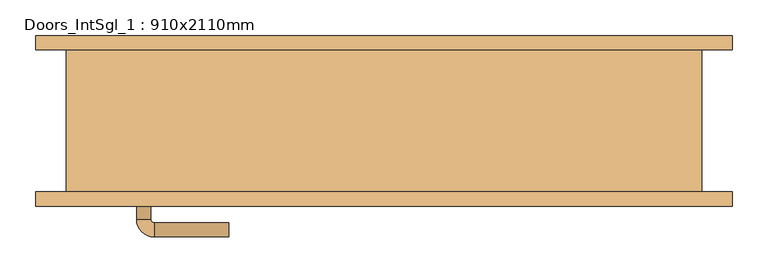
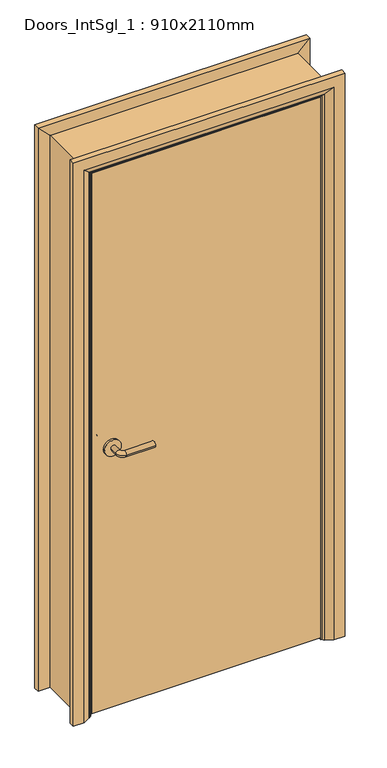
"""IFC4 building model written with IfcOpenShell, lengths in millimetres: door geometry, Doors_IntSgl_1 : 910x2110mm."""

from ifc_helpers import new_model, si_unit, point, frame, frame_2d, origin, place, context, project, spatial, polyline, circle_curve, ellipse_curve, trimmed, segment, composite_curve, outline, extrude, faceted_brep, source, transform, mapped, element, save
from ifc_brep_helpers import plane_surface, cylinder_surface, revolved_surface, advanced_brep


def doors_intsgl_1_910x2110mm_80b4a4db(model_context):
    return source(origin(), model_context, "Body", "SolidModel", [
        advanced_brep(
        [(-348.0, -54.0, 1000.0), (-328.0, -54.0, 1000.0), (-348.0, -24.0, 1000.0), (-328.0, -24.0, 1000.0), (-323.0, -19.0, 1000.0), (-323.0, 1.0, 1000.0), (-218.0, 1.0, 1000.0), (-218.0, -19.0, 1000.0)],
        [
            (0, 1, circle_curve(frame((-338.0, -54.0, 1000.0), z_axis=(0.0, -1.0, 0.0), x_axis=(1.0, 0.0, 0.0)), 10.0)),
            (1, 0, circle_curve(frame((-338.0, -54.0, 1000.0), z_axis=(0.0, -1.0, 0.0), x_axis=(1.0, 0.0, 0.0)), 10.0)),
            (0, 2),
            (2, 3, circle_curve(frame((-338.0, -24.0, 1000.0), z_axis=(0.0, -1.0, 0.0), x_axis=(1.0, 0.0, 0.0)), 10.0)),
            (3, 1),
            (3, 2, circle_curve(frame((-338.0, -24.0, 1000.0), z_axis=(0.0, -1.0, 0.0), x_axis=(1.0, 0.0, 0.0)), 10.0)),
            (4, 3, circle_curve(frame((-323.0, -24.0, 1000.0), z_axis=(0.0, 0.0, 1.0), x_axis=(-1.0, 0.0, 0.0)), 5.0)),
            (2, 5, circle_curve(frame((-323.0, -24.0, 1000.0), z_axis=(0.0, 0.0, -1.0), x_axis=(-1.0, 0.0, 0.0)), 25.0)),
            (5, 4, circle_curve(frame((-323.0, -9.0, 1000.0), z_axis=(-1.0, 0.0, 0.0), x_axis=(0.0, -1.0, 0.0)), 10.0)),
            (4, 5, circle_curve(frame((-323.0, -9.0, 1000.0), z_axis=(-1.0, 0.0, 0.0), x_axis=(0.0, -1.0, 0.0)), 10.0)),
            (6, 7, circle_curve(frame((-218.0, -9.0, 1000.0), z_axis=(1.0, 0.0, 0.0), x_axis=(0.0, -1.0, 0.0)), 10.0)),
            (7, 6, circle_curve(frame((-218.0, -9.0, 1000.0), z_axis=(1.0, 0.0, 0.0), x_axis=(0.0, -1.0, 0.0)), 10.0)),
            (5, 6),
            (7, 4),
        ],
        [
            plane_surface(frame((-338.0, -54.0, 1000.0), z_axis=(0.0, -1.0, 0.0), x_axis=(0.0, 0.0, 1.0))),
            cylinder_surface(frame((-338.0, -54.0, 1000.0), z_axis=(0.0, -1.0, 0.0), x_axis=(1.0, 0.0, 0.0)), 10.0),
            revolved_surface(trimmed(ellipse_curve(frame((-338.0, -24.0, 1000.0), z_axis=(0.0, -1.0, 0.0), x_axis=(1.0, 0.0, 0.0)), 10.0, 10.0), [point((-348.0, -24.0, 1000.0))], [point((-328.0, -24.0, 1000.0))], True, "CARTESIAN"), (-323.0, -24.0, 1000.0), (0.0, 0.0, -1.0)),
            revolved_surface(trimmed(ellipse_curve(frame((-338.0, -24.0, 1000.0), z_axis=(0.0, -1.0, 0.0), x_axis=(1.0, 0.0, 0.0)), 10.0, 10.0), [point((-328.0, -24.0, 1000.0))], [point((-348.0, -24.0, 1000.0))], True, "CARTESIAN"), (-323.0, -24.0, 1000.0), (0.0, 0.0, -1.0)),
            plane_surface(frame((-218.0, -9.0, 1000.0), z_axis=(1.0, 0.0, 0.0), x_axis=(0.0, 0.0, 1.0))),
            cylinder_surface(frame((-323.0, -9.0, 1000.0), z_axis=(-1.0, 0.0, 0.0), x_axis=(0.0, -1.0, 0.0)), 10.0),
        ],
        [
            (0, [[1, 2]]),
            (1, [[-1, 3, 4, 5]]),
            (1, [[-2, -5, 6, -3]]),
            (2, [[7, -4, 8, 9]]),
            (3, [[-8, -6, -7, 10]]),
            (4, [[11, 12]]),
            (5, [[-9, 13, -12, 14]]),
            (5, [[-10, -14, -11, -13]]),
        ],
    ),
        extrude(outline(composite_curve([segment(trimmed(circle_curve(frame_2d((1000.0, -340.5)), 30.0), [point((1000.0, -370.5))], [point((1000.0, -310.5))], False, "CARTESIAN"), True, "CONTINUOUS"), segment(trimmed(circle_curve(frame_2d((1000.0, -340.5)), 30.0), [point((1000.0, -310.5))], [point((1000.0, -370.5))], False, "CARTESIAN"), True, "CONTINUOUS")], self_intersect=False)), frame((0.0, -62.0, 0.0), z_axis=(0.0, 1.0, 0.0), x_axis=(0.0, 0.0, 1.0)), (0.0, 0.0, 1.0), 8.0),
        advanced_brep(
        [(-348.0, -108.0, 1000.0), (-328.0, -108.0, 1000.0), (-328.0, -138.0, 1000.0), (-348.0, -138.0, 1000.0), (-323.0, -143.0, 1000.0), (-323.0, -163.0, 1000.0), (-218.0, -163.0, 1000.0), (-218.0, -143.0, 1000.0)],
        [
            (0, 1, circle_curve(frame((-338.0, -108.0, 1000.0), z_axis=(0.0, 1.0, 0.0), x_axis=(1.0, 0.0, 0.0)), 10.0)),
            (1, 0, circle_curve(frame((-338.0, -108.0, 1000.0), z_axis=(0.0, 1.0, 0.0), x_axis=(1.0, 0.0, 0.0)), 10.0)),
            (1, 2),
            (2, 3, circle_curve(frame((-338.0, -138.0, 1000.0), z_axis=(0.0, 1.0, 0.0), x_axis=(1.0, 0.0, 0.0)), 10.0)),
            (3, 0),
            (3, 2, circle_curve(frame((-338.0, -138.0, 1000.0), z_axis=(0.0, 1.0, 0.0), x_axis=(1.0, 0.0, 0.0)), 10.0)),
            (4, 5, circle_curve(frame((-323.0, -153.0, 1000.0), z_axis=(-1.0, 0.0, 0.0), x_axis=(0.0, 1.0, 0.0)), 10.0)),
            (5, 3, circle_curve(frame((-323.0, -138.0, 1000.0), z_axis=(0.0, 0.0, -1.0), x_axis=(-1.0, 0.0, 0.0)), 25.0)),
            (2, 4, circle_curve(frame((-323.0, -138.0, 1000.0), z_axis=(0.0, 0.0, 1.0), x_axis=(-1.0, 0.0, 0.0)), 5.0)),
            (5, 4, circle_curve(frame((-323.0, -153.0, 1000.0), z_axis=(-1.0, 0.0, 0.0), x_axis=(0.0, 1.0, 0.0)), 10.0)),
            (6, 7, circle_curve(frame((-218.0, -153.0, 1000.0), z_axis=(1.0, 0.0, 0.0), x_axis=(0.0, 1.0, 0.0)), 10.0)),
            (7, 6, circle_curve(frame((-218.0, -153.0, 1000.0), z_axis=(1.0, 0.0, 0.0), x_axis=(0.0, 1.0, 0.0)), 10.0)),
            (4, 7),
            (6, 5),
        ],
        [
            plane_surface(frame((-338.0, -108.0, 1000.0), z_axis=(0.0, 1.0, 0.0), x_axis=(0.0, 0.0, 1.0))),
            cylinder_surface(frame((-338.0, -108.0, 1000.0), z_axis=(0.0, 1.0, 0.0), x_axis=(1.0, 0.0, 0.0)), 10.0),
            revolved_surface(trimmed(ellipse_curve(frame((-338.0, -138.0, 1000.0), z_axis=(0.0, -1.0, 0.0), x_axis=(1.0, 0.0, 0.0)), 10.0, 10.0), [point((-348.0, -138.0, 1000.0))], [point((-328.0, -138.0, 1000.0))], True, "CARTESIAN"), (-323.0, -138.0, 1000.0), (0.0, 0.0, -1.0)),
            revolved_surface(trimmed(ellipse_curve(frame((-338.0, -138.0, 1000.0), z_axis=(0.0, -1.0, 0.0), x_axis=(1.0, 0.0, 0.0)), 10.0, 10.0), [point((-328.0, -138.0, 1000.0))], [point((-348.0, -138.0, 1000.0))], True, "CARTESIAN"), (-323.0, -138.0, 1000.0), (0.0, 0.0, -1.0)),
            plane_surface(frame((-218.0, -153.0, 1000.0), z_axis=(1.0, 0.0, 0.0), x_axis=(0.0, 0.0, 1.0))),
            cylinder_surface(frame((-323.0, -153.0, 1000.0), z_axis=(-1.0, 0.0, 0.0), x_axis=(0.0, 1.0, 0.0)), 10.0),
        ],
        [
            (0, [[1, 2]]),
            (1, [[3, 4, 5, -2]]),
            (1, [[-5, 6, -3, -1]]),
            (2, [[7, 8, -4, 9]]),
            (3, [[10, -9, -6, -8]]),
            (4, [[11, 12]]),
            (5, [[13, -11, 14, -7]]),
            (5, [[-14, -12, -13, -10]]),
        ],
    ),
        extrude(outline(composite_curve([segment(trimmed(circle_curve(frame_2d((1000.0, -340.5)), 30.0), [point((1000.0, -370.5))], [point((1000.0, -310.5))], False, "CARTESIAN"), True, "CONTINUOUS"), segment(trimmed(circle_curve(frame_2d((1000.0, -340.5)), 30.0), [point((1000.0, -310.5))], [point((1000.0, -370.5))], False, "CARTESIAN"), True, "CONTINUOUS")], self_intersect=False)), frame((0.0, -108.0, 0.0), z_axis=(0.0, 1.0, 0.0), x_axis=(0.0, 0.0, 1.0)), (0.0, 0.0, 1.0), 8.0),
        extrude(outline(polyline([(413.0, -62.0), (413.0, -100.0), (-413.0, -100.0), (-413.0, -62.0), (413.0, -62.0)])), frame((0.0, 0.0, 8.0), z_axis=(0.0, 0.0, 1.0), x_axis=(1.0, 0.0, 0.0)), (0.0, 0.0, 1.0), 2060.0),
        advanced_brep(
        [(490.0, -120.0, 0.0), (450.0, -120.0, 0.0), (424.0, -106.0, 0.0), (420.0, -100.0, 0.0), (490.0, -100.0, 0.0), (490.0, -100.0, 2145.0), (490.0, -120.0, 2145.0), (420.0, -100.0, 2075.0), (-420.0, -100.0, 2075.0), (-420.0, -100.0, 0.0), (-490.0, -100.0, 0.0), (-490.0, -100.0, 2145.0), (424.0, -106.0, 2079.0), (450.0, -120.0, 2105.0), (-490.0, -120.0, 2145.0), (-490.0, -120.0, 0.0), (-450.0, -120.0, 0.0), (-450.0, -120.0, 2105.0), (-424.0, -106.0, 0.0), (-424.0, -106.0, 2079.0)],
        [
            (0, 1),
            (1, 2),
            (2, 3, circle_curve(frame((428.0, -99.0, 0.0), z_axis=(0.0, 0.0, -1.0), x_axis=(1.0, 0.0, 0.0)), 8.0622577)),
            (3, 4),
            (4, 0),
            (4, 5),
            (5, 6),
            (6, 0),
            (3, 7),
            (7, 8),
            (8, 9),
            (9, 10),
            (10, 11),
            (11, 5),
            (2, 12),
            (12, 7, ellipse_curve(frame((428.0, -99.0, 2083.0), z_axis=(0.7071067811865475, 0.0, -0.7071067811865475), x_axis=(-0.7071067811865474, 0.0, -0.7071067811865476)), 11.4017543, 8.0622577)),
            (1, 13),
            (13, 12),
            (6, 14),
            (14, 15),
            (15, 16),
            (16, 17),
            (17, 13),
            (10, 15),
            (14, 11),
            (9, 18, circle_curve(frame((-428.0, -99.0, 0.0), z_axis=(0.0, 0.0, -1.0), x_axis=(-1.0, 0.0, 0.0)), 8.0622577)),
            (18, 16),
            (19, 18),
            (8, 19, ellipse_curve(frame((-428.0, -99.0, 2083.0), z_axis=(-0.7071067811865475, 0.0, -0.7071067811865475), x_axis=(-0.7071067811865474, 0.0, 0.7071067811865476)), 11.4017543, 8.0622577)),
            (19, 17),
            (12, 19),
        ],
        [
            plane_surface(frame((420.0, -100.0, 0.0), z_axis=(0.0, 0.0, -1.0), x_axis=(0.0, 1.0, 0.0))),
            plane_surface(frame((490.0, -120.0, 0.0), z_axis=(1.0, 0.0, 0.0), x_axis=(0.0, 0.0, 1.0))),
            plane_surface(frame((490.0, -100.0, 0.0), z_axis=(0.0, 1.0, 0.0), x_axis=(0.0, 0.0, 1.0))),
            cylinder_surface(frame((428.0, -99.0, 0.0), z_axis=(0.0, 0.0, -1.0), x_axis=(1.0, 0.0, 0.0)), 8.0622577),
            plane_surface(frame((424.0, -106.0, 0.0), z_axis=(-0.4740998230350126, -0.880471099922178, 0.0), x_axis=(0.0, 0.0, 1.0))),
            plane_surface(frame((450.0, -120.0, 0.0), z_axis=(0.0, -1.0, 0.0), x_axis=(0.0, 0.0, 1.0))),
            plane_surface(frame((-490.0, -120.0, 2145.0), z_axis=(-1.0, 0.0, 0.0), x_axis=(0.0, 0.0, -1.0))),
            plane_surface(frame((-420.0, -100.0, 0.0), z_axis=(0.0, 0.0, -1.0), x_axis=(0.0, 1.0, 0.0))),
            cylinder_surface(frame((-428.0, -99.0, 2075.0), z_axis=(0.0, 0.0, 1.0), x_axis=(-1.0, 0.0, 0.0)), 8.0622577),
            plane_surface(frame((-424.0, -106.0, 2079.0), z_axis=(0.47409982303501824, -0.8804710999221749, 0.0), x_axis=(0.0, 0.0, -1.0))),
            plane_surface(frame((490.0, -120.0, 2145.0), z_axis=(0.0, 0.0, 1.0), x_axis=(-1.0, 0.0, 0.0))),
            cylinder_surface(frame((420.0, -99.0, 2083.0), z_axis=(1.0, 0.0, 0.0), x_axis=(0.0, 0.0, 1.0)), 8.0622577),
            plane_surface(frame((424.0, -106.0, 2079.0), z_axis=(0.0, -0.8804710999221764, -0.4740998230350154), x_axis=(-1.0, 0.0, 0.0))),
        ],
        [
            (0, [[1, 2, 3, 4, 5]]),
            (1, [[6, 7, 8, -5]]),
            (2, [[9, 10, 11, 12, 13, 14, -6, -4]]),
            (3, [[15, 16, -9, -3]]),
            (4, [[17, 18, -15, -2]]),
            (5, [[-8, 19, 20, 21, 22, 23, -17, -1]]),
            (6, [[-13, 24, -20, 25]]),
            (7, [[-24, -12, 26, 27, -21]]),
            (8, [[28, -26, -11, 29]]),
            (9, [[-22, -27, -28, 30]]),
            (10, [[-14, -25, -19, -7]]),
            (11, [[31, -29, -10, -16]]),
            (12, [[-23, -30, -31, -18]]),
        ],
    ),
        extrude(outline(polyline([(0.0, -396.0), (2051.0, -396.0), (2051.0, 396.0), (0.0, 396.0), (0.0, 415.0), (2070.0, 415.0), (2070.0, -415.0), (0.0, -415.0), (0.0, -396.0)])), frame((0.0, -60.0, 0.0), z_axis=(0.0, 1.0, 0.0), x_axis=(0.0, 0.0, 1.0)), (0.0, 0.0, 1.0), 32.0),
        advanced_brep(
        [(-490.0, 120.0, 0.0), (-450.0, 120.0, 0.0), (-424.0, 106.0, 0.0), (-420.0, 100.0, 0.0), (-490.0, 100.0, 0.0), (-490.0, 100.0, 2145.0), (-490.0, 120.0, 2145.0), (-420.0, 100.0, 2075.0), (-424.0, 106.0, 2079.0), (-450.0, 120.0, 2105.0), (490.0, 120.0, 0.0), (490.0, 100.0, 0.0), (420.0, 100.0, 0.0), (424.0, 106.0, 0.0), (450.0, 120.0, 0.0), (490.0, 120.0, 2145.0), (450.0, 120.0, 2105.0), (424.0, 106.0, 2079.0), (420.0, 100.0, 2075.0), (490.0, 100.0, 2145.0)],
        [
            (0, 1),
            (1, 2),
            (2, 3, circle_curve(frame((-428.0, 99.0, 0.0), z_axis=(0.0, 0.0, -1.0), x_axis=(-1.0, 0.0, 0.0)), 8.0622577)),
            (3, 4),
            (4, 0),
            (4, 5),
            (5, 6),
            (6, 0),
            (3, 7),
            (7, 5),
            (2, 8),
            (8, 7, ellipse_curve(frame((-428.0, 99.0, 2083.0), z_axis=(-0.7071067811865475, 0.0, -0.7071067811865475), x_axis=(0.7071067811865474, 0.0, -0.7071067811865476)), 11.4017543, 8.0622577)),
            (1, 9),
            (9, 8),
            (6, 9),
            (10, 11),
            (11, 12),
            (12, 13, circle_curve(frame((428.0, 99.0, 0.0), z_axis=(0.0, 0.0, -1.0), x_axis=(1.0, 0.0, 0.0)), 8.0622577)),
            (13, 14),
            (14, 10),
            (15, 10),
            (14, 16),
            (16, 15),
            (13, 17),
            (17, 16),
            (12, 18),
            (18, 17, ellipse_curve(frame((428.0, 99.0, 2083.0), z_axis=(0.7071067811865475, 0.0, -0.7071067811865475), x_axis=(0.7071067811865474, 0.0, 0.7071067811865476)), 11.4017543, 8.0622577)),
            (11, 19),
            (19, 18),
            (15, 19),
            (5, 19),
            (15, 6),
            (7, 18),
            (8, 17),
            (9, 16),
        ],
        [
            plane_surface(frame((-420.0, 172.8010989, 0.0), z_axis=(0.0, 0.0, -1.0), x_axis=(1.0, 0.0, 0.0))),
            plane_surface(frame((-490.0, 120.0, 0.0), z_axis=(-1.0, 0.0, 0.0), x_axis=(0.0, 0.0, 1.0))),
            plane_surface(frame((-490.0, 100.0, 0.0), z_axis=(0.0, -1.0, 0.0), x_axis=(0.0, 0.0, 1.0))),
            cylinder_surface(frame((-428.0, 99.0, 0.0), z_axis=(0.0, 0.0, -1.0), x_axis=(-1.0, 0.0, 0.0)), 8.0622577),
            plane_surface(frame((-424.0, 106.0, 0.0), z_axis=(0.4740998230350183, 0.8804710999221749, 0.0), x_axis=(0.0, 0.0, 1.0))),
            plane_surface(frame((-450.0, 120.0, 0.0), z_axis=(0.0, 1.0, 0.0), x_axis=(0.0, 0.0, 1.0))),
            plane_surface(frame((420.0, 172.8010989, 0.0), z_axis=(0.0, 0.0, -1.0), x_axis=(-1.0, 0.0, 0.0))),
            plane_surface(frame((450.0, 120.0, 2105.0), z_axis=(0.0, 1.0, 0.0), x_axis=(0.0, 0.0, -1.0))),
            plane_surface(frame((424.0, 106.0, 2079.0), z_axis=(-0.4740998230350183, 0.8804710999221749, 0.0), x_axis=(0.0, 0.0, -1.0))),
            cylinder_surface(frame((428.0, 99.0, 2075.0), z_axis=(0.0, 0.0, 1.0), x_axis=(1.0, 0.0, 0.0)), 8.0622577),
            plane_surface(frame((490.0, 100.0, 2145.0), z_axis=(0.0, -1.0, 0.0), x_axis=(0.0, 0.0, -1.0))),
            plane_surface(frame((490.0, 120.0, 2145.0), z_axis=(1.0, 0.0, 0.0), x_axis=(0.0, 0.0, -1.0))),
            plane_surface(frame((-490.0, 120.0, 2145.0), z_axis=(0.0, 0.0, 1.0), x_axis=(1.0, 0.0, 0.0))),
            plane_surface(frame((-490.0, 100.0, 2145.0), z_axis=(0.0, -1.0, 0.0), x_axis=(1.0, 0.0, 0.0))),
            cylinder_surface(frame((-420.0, 99.0, 2083.0), z_axis=(-1.0, 0.0, 0.0), x_axis=(0.0, 0.0, 1.0)), 8.0622577),
            plane_surface(frame((-424.0, 106.0, 2079.0), z_axis=(0.0, 0.8804710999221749, -0.4740998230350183), x_axis=(1.0, 0.0, 0.0))),
            plane_surface(frame((-450.0, 120.0, 2105.0), z_axis=(0.0, 1.0, 0.0), x_axis=(1.0, 0.0, 0.0))),
        ],
        [
            (0, [[1, 2, 3, 4, 5]]),
            (1, [[6, 7, 8, -5]]),
            (2, [[9, 10, -6, -4]]),
            (3, [[11, 12, -9, -3]]),
            (4, [[13, 14, -11, -2]]),
            (5, [[-8, 15, -13, -1]]),
            (6, [[16, 17, 18, 19, 20]]),
            (7, [[21, -20, 22, 23]]),
            (8, [[-22, -19, 24, 25]]),
            (9, [[-24, -18, 26, 27]]),
            (10, [[-26, -17, 28, 29]]),
            (11, [[-28, -16, -21, 30]]),
            (12, [[31, -30, 32, -7]]),
            (13, [[33, -29, -31, -10]]),
            (14, [[34, -27, -33, -12]]),
            (15, [[35, -25, -34, -14]]),
            (16, [[-32, -23, -35, -15]]),
        ],
    ),
        faceted_brep([(-415.0, -100.0, 0.0), (-447.0, -100.0, 0.0), (-447.0, 100.0, 0.0), (-415.0, 100.0, 0.0), (-415.0, 100.0, 2070.0), (-415.0, -100.0, 2070.0), (-447.0, 100.0, 2102.0), (-447.0, -100.0, 2102.0), (415.0, -100.0, 0.0), (415.0, 100.0, 0.0), (447.0, 100.0, 0.0), (447.0, -100.0, 0.0), (415.0, -100.0, 2070.0), (447.0, -100.0, 2102.0), (447.0, 100.0, 2102.0), (415.0, 100.0, 2070.0)], [[[0, 1, 2, 3]], [[3, 4, 5, 0]], [[2, 6, 4, 3]], [[1, 7, 6, 2]], [[0, 5, 7, 1]], [[8, 9, 10, 11]], [[12, 8, 11, 13]], [[13, 11, 10, 14]], [[14, 10, 9, 15]], [[15, 9, 8, 12]], [[4, 15, 12, 5]], [[6, 14, 15, 4]], [[7, 13, 14, 6]], [[5, 12, 13, 7]]]),
    ])


if __name__ == "__main__":
    model = new_model("IFC4")
    model_context = context("Model", 3, world=origin())
    ifc_project = project(units=[si_unit("LENGTHUNIT", "METRE", prefix="MILLI")], contexts=[model_context])
    site = spatial("IfcSite", under=ifc_project)
    building = spatial("IfcBuilding", under=site)
    placement = place(None, origin())
    doors_intsgl_1_910x2110mm_shape = doors_intsgl_1_910x2110mm_80b4a4db(model_context)
    element("IfcDoor", 1, ObjectType="Doors_IntSgl_1 : 910x2110mm", at=placement, inside=building, context=model_context, shape_type="MappedRepresentation", body=[
        mapped(doors_intsgl_1_910x2110mm_shape, transform((0.0, 0.0, 0.0), x_axis=(1.0, 0.0, 0.0), y_axis=(0.0, 1.0, 0.0), z_axis=(0.0, 0.0, 1.0))),
    ])
    save(model, "model.ifc")
